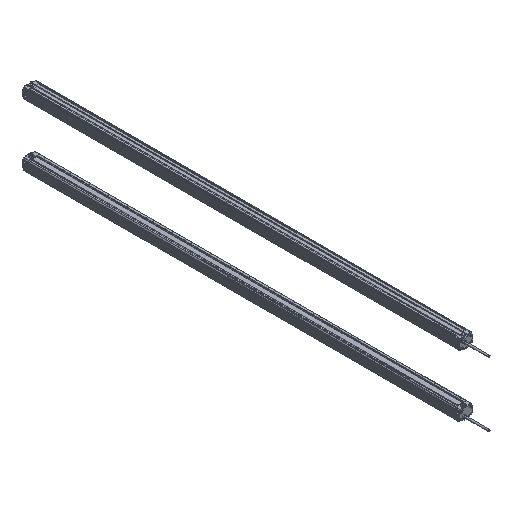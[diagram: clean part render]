
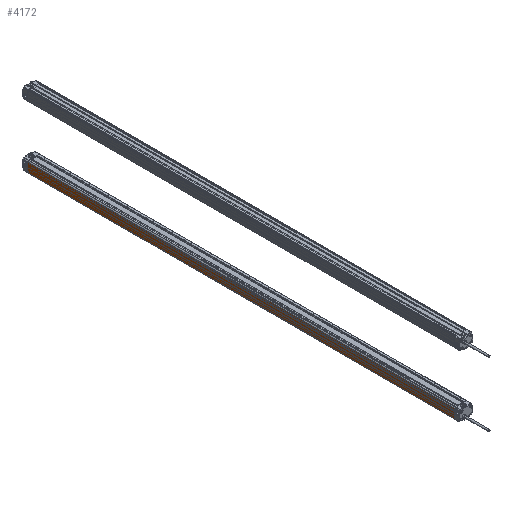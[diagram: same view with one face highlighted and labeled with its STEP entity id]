
A CAD part, isometric view. The second image highlights one B-rep face of the part: STEP entity #4172.
In plain terms, the highlighted planar face has unit normal (-1, 0, 0).
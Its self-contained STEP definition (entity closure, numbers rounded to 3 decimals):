
#58 = ORIENTED_EDGE ( 'NONE', *, *, #7199, .F. ) ;
#403 = CARTESIAN_POINT ( 'NONE',  ( -12.5, -840., 8.293 ) ) ;
#524 = DIRECTION ( 'NONE',  ( 0., 0., 1. ) ) ;
#600 = DIRECTION ( 'NONE',  ( -1., 0., 0. ) ) ;
#602 = FACE_OUTER_BOUND ( 'NONE', #4907, .T. ) ;
#879 = VERTEX_POINT ( 'NONE', #9506 ) ;
#1006 = LINE ( 'NONE', #8149, #9477 ) ;
#1304 = EDGE_CURVE ( 'NONE', #879, #6444, #1865, .T. ) ;
#1475 = CARTESIAN_POINT ( 'NONE',  ( -12.5, -840., -9.2 ) ) ;
#1598 = VECTOR ( 'NONE', #6352, 1000. ) ;
#1750 = ORIENTED_EDGE ( 'NONE', *, *, #1304, .T. ) ;
#1865 = LINE ( 'NONE', #403, #1598 ) ;
#2177 = VERTEX_POINT ( 'NONE', #6907 ) ;
#2494 = ORIENTED_EDGE ( 'NONE', *, *, #10314, .T. ) ;
#2518 = PLANE ( 'NONE',  #9780 ) ;
#3346 = CARTESIAN_POINT ( 'NONE',  ( -12.5, -840., -9.2 ) ) ;
#3362 = ORIENTED_EDGE ( 'NONE', *, *, #6672, .F. ) ;
#4172 = ADVANCED_FACE ( 'NONE', ( #602 ), #2518, .T. ) ;
#4894 = VECTOR ( 'NONE', #9882, 1000. ) ;
#4907 = EDGE_LOOP ( 'NONE', ( #58, #3362, #2494, #1750 ) ) ;
#5146 = LINE ( 'NONE', #6535, #4894 ) ;
#5720 = DIRECTION ( 'NONE',  ( 0., 0., 1. ) ) ;
#5901 = VECTOR ( 'NONE', #10014, 1000. ) ;
#6352 = DIRECTION ( 'NONE',  ( 0., 1., 0. ) ) ;
#6444 = VERTEX_POINT ( 'NONE', #8000 ) ;
#6535 = CARTESIAN_POINT ( 'NONE',  ( -12.5, -840., -9.2 ) ) ;
#6672 = EDGE_CURVE ( 'NONE', #2177, #7445, #6818, .T. ) ;
#6818 = LINE ( 'NONE', #1475, #5901 ) ;
#6907 = CARTESIAN_POINT ( 'NONE',  ( -12.5, -840., -9.2 ) ) ;
#7199 = EDGE_CURVE ( 'NONE', #7445, #6444, #1006, .T. ) ;
#7216 = CARTESIAN_POINT ( 'NONE',  ( -12.5, 0., -9.2 ) ) ;
#7445 = VERTEX_POINT ( 'NONE', #7216 ) ;
#8000 = CARTESIAN_POINT ( 'NONE',  ( -12.5, 0., 8.293 ) ) ;
#8149 = CARTESIAN_POINT ( 'NONE',  ( -12.5, 0., -9.2 ) ) ;
#9477 = VECTOR ( 'NONE', #5720, 1000. ) ;
#9506 = CARTESIAN_POINT ( 'NONE',  ( -12.5, -840., 8.293 ) ) ;
#9780 = AXIS2_PLACEMENT_3D ( 'NONE', #3346, #600, #524 ) ;
#9882 = DIRECTION ( 'NONE',  ( 0., 0., 1. ) ) ;
#10014 = DIRECTION ( 'NONE',  ( 0., 1., 0. ) ) ;
#10314 = EDGE_CURVE ( 'NONE', #2177, #879, #5146, .T. ) ;
